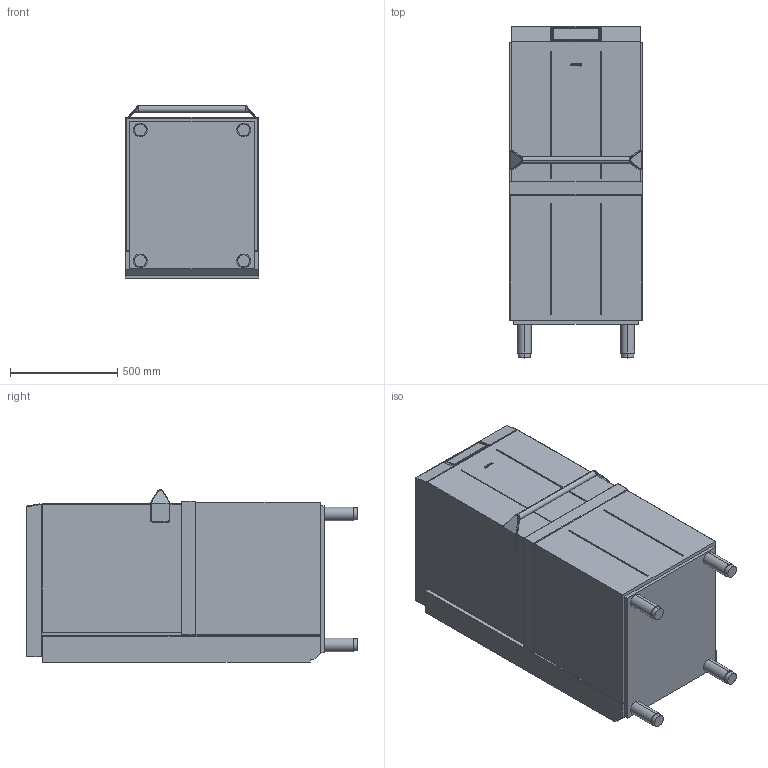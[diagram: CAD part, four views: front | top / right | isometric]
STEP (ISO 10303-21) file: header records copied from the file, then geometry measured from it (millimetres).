
FILE_DESCRIPTION (( 'STEP AP214' ), '1' );
FILE_NAME ('CAP-500-TOP-EASY-ABB.STEP', '2017-12-07T15:08:44', ( '' ), ( '' ), 'SwSTEP 2.0', 'SolidWorks 2016', '' );
FILE_SCHEMA (( 'AUTOMOTIVE_DESIGN' ));
Length unit declared in the file: millimetre
Products named in the file (1): CAP-500-TOP-EASY-ABB
Bounding box: 620 x 1545.5 x 802.96 mm (x, y, z)
Volume: 626209495.4 mm3; surface area: 4964508.1 mm2
Topology: 2 solids, 2 shells, 326 faces, 827 edges, 521 vertices
Faces by surface type: plane 139, cylinder 137, bspline 25, torus 14, sphere 11
Entity records: 10112 total; most frequent: CARTESIAN_POINT 2343, ORIENTED_EDGE 1638, DIRECTION 1617, EDGE_CURVE 819, AXIS2_PLACEMENT_3D 577, VERTEX_POINT 521, VECTOR 463, LINE 463
